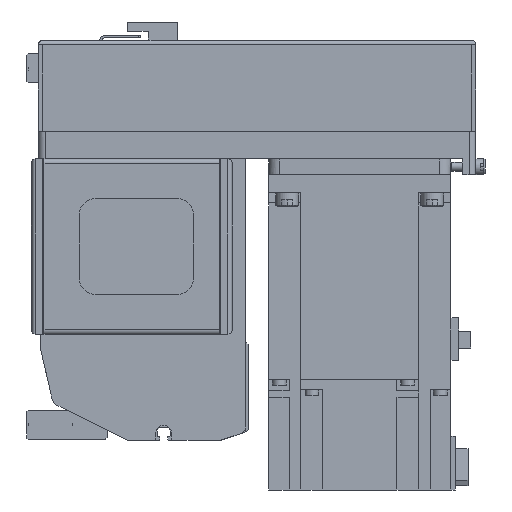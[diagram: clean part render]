
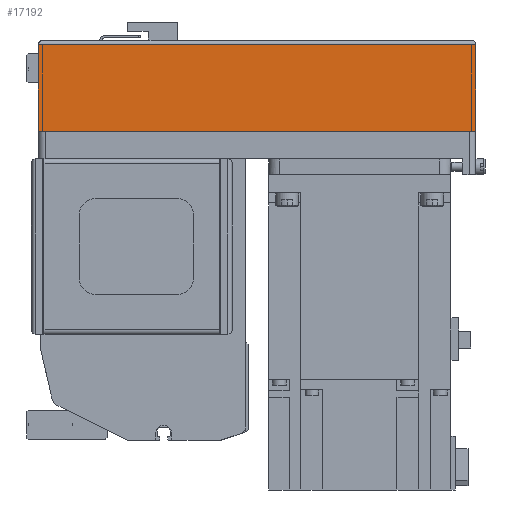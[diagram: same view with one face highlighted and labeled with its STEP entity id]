
A CAD part, left-side view. The second image highlights one B-rep face of the part: STEP entity #17192.
In plain terms, the highlighted planar face has unit normal (-1, 0, 0) as drawn and (0, -1, 0) by its records, which use the part's own axes.
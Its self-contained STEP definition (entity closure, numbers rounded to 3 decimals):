
#2718=ORIENTED_EDGE('',*,*,#6955,.F.);
#2719=ORIENTED_EDGE('',*,*,#6939,.F.);
#2720=ORIENTED_EDGE('',*,*,#6932,.T.);
#2721=ORIENTED_EDGE('',*,*,#7002,.T.);
#6932=EDGE_CURVE('',#9225,#9224,#10984,.T.);
#6939=EDGE_CURVE('',#9225,#9231,#10991,.T.);
#6955=EDGE_CURVE('',#9231,#9245,#11007,.T.);
#7002=EDGE_CURVE('',#9224,#9245,#11028,.T.);
#9224=VERTEX_POINT('',#26427);
#9225=VERTEX_POINT('',#26429);
#9231=VERTEX_POINT('',#26444);
#9245=VERTEX_POINT('',#26477);
#10984=LINE('',#26428,#12600);
#10991=LINE('',#26443,#12607);
#11007=LINE('',#26476,#12623);
#11028=LINE('',#26557,#12644);
#12600=VECTOR('',#21148,1000.);
#12607=VECTOR('',#21159,1000.);
#12623=VECTOR('',#21181,1000.);
#12644=VECTOR('',#21290,1000.);
#14078=EDGE_LOOP('',(#2718,#2719,#2720,#2721));
#15360=FACE_BOUND('',#14078,.T.);
#16473=PLANE('',#18439);
#17192=ADVANCED_FACE('',(#15360),#16473,.T.);
#18439=AXIS2_PLACEMENT_3D('',#26558,#21291,#21292);
#21148=DIRECTION('',(0.,0.,-1.));
#21159=DIRECTION('',(1.,0.,0.));
#21181=DIRECTION('',(0.,0.,-1.));
#21290=DIRECTION('',(1.,0.,0.));
#21291=DIRECTION('',(0.,-1.,0.));
#21292=DIRECTION('',(0.,0.,-1.));
#26427=CARTESIAN_POINT('',(-192.,-40.,-50.));
#26428=CARTESIAN_POINT('',(-192.,-40.,-12.1));
#26429=CARTESIAN_POINT('',(-192.,-40.,-12.1));
#26443=CARTESIAN_POINT('',(-192.,-40.,-12.1));
#26444=CARTESIAN_POINT('',(0.,-40.,-12.1));
#26476=CARTESIAN_POINT('',(0.,-40.,-12.1));
#26477=CARTESIAN_POINT('',(0.,-40.,-50.));
#26557=CARTESIAN_POINT('',(-192.,-40.,-50.));
#26558=CARTESIAN_POINT('',(-192.,-40.,-12.1));
